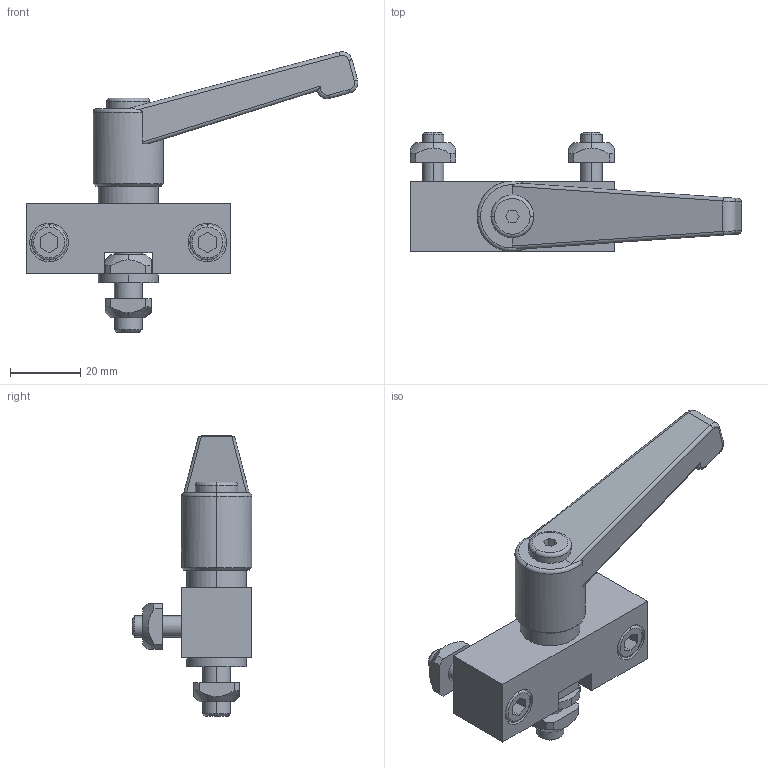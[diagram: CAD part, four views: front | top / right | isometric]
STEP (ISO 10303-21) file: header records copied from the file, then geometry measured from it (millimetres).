
FILE_DESCRIPTION (( 'STEP AP214' ), '1' );
FILE_NAME ('2.9005 Lukitusyksikkö GL.STEP', '2026-03-30T12:08:09', ( '' ), ( '' ), 'SwSTEP 2.0', 'SolidWorks 2025', '' );
FILE_SCHEMA (( 'AUTOMOTIVE_DESIGN' ));
Length unit declared in the file: millimetre
Products named in the file (1): 2.9005 Lukitusyksikkö GL
Bounding box: 94.22 x 34 x 79.7 mm (x, y, z)
Volume: 42206.5 mm3; surface area: 15347.6 mm2
Topology: 1 solids, 1 shells, 188 faces, 465 edges, 296 vertices
Faces by surface type: plane 89, cylinder 51, cone 28, torus 12, bspline 8
Entity records: 32426 total; most frequent: CARTESIAN_POINT 26437, ORIENTED_EDGE 926, DIRECTION 872, EDGE_CURVE 463, AXIS2_PLACEMENT_3D 316, VERTEX_POINT 296, VECTOR 240, LINE 240
